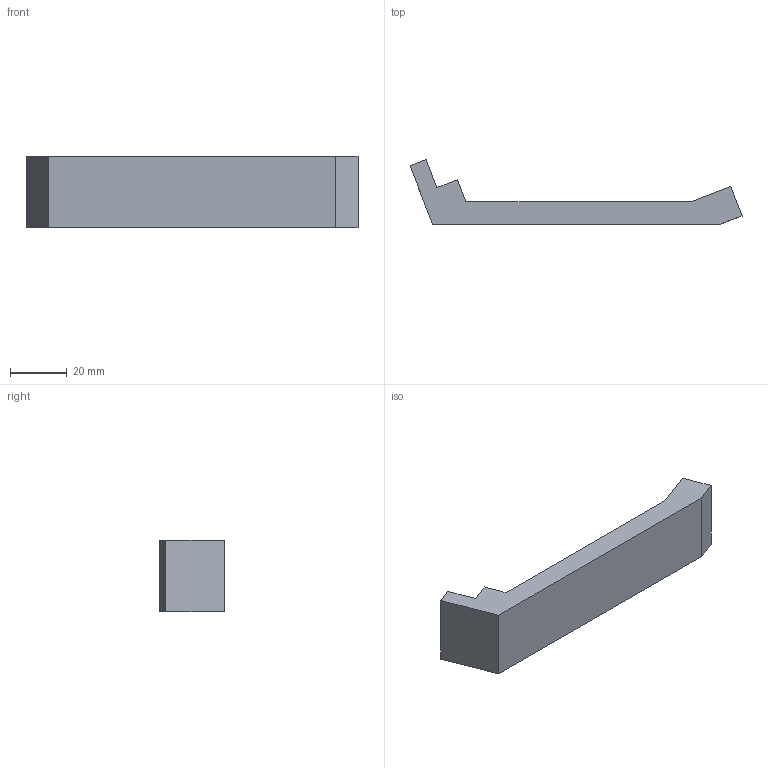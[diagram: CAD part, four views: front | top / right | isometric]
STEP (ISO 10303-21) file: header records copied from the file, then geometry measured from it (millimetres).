
FILE_DESCRIPTION (( 'STEP AP203' ), '1' );
FILE_NAME ('HM9405FJ.STEP', '2023-08-25T14:29:26', ( '' ), ( '' ), 'SwSTEP 2.0', 'SolidWorks 2020', '' );
FILE_SCHEMA (( 'CONFIG_CONTROL_DESIGN' ));
Length unit declared in the file: inch
Products named in the file (1): HM9405FJ
Bounding box: 117.47 x 23.01 x 25.4 mm (x, y, z)
Volume: 26802.7 mm3; surface area: 8998.4 mm2
Topology: 1 solids, 1 shells, 12 faces, 30 edges, 20 vertices
Faces by surface type: plane 12
Entity records: 433 total; most frequent: CARTESIAN_POINT 63, ORIENTED_EDGE 60, DIRECTION 56, VECTOR 30, LINE 30, EDGE_CURVE 30, VERTEX_POINT 20, AXIS2_PLACEMENT_3D 13
